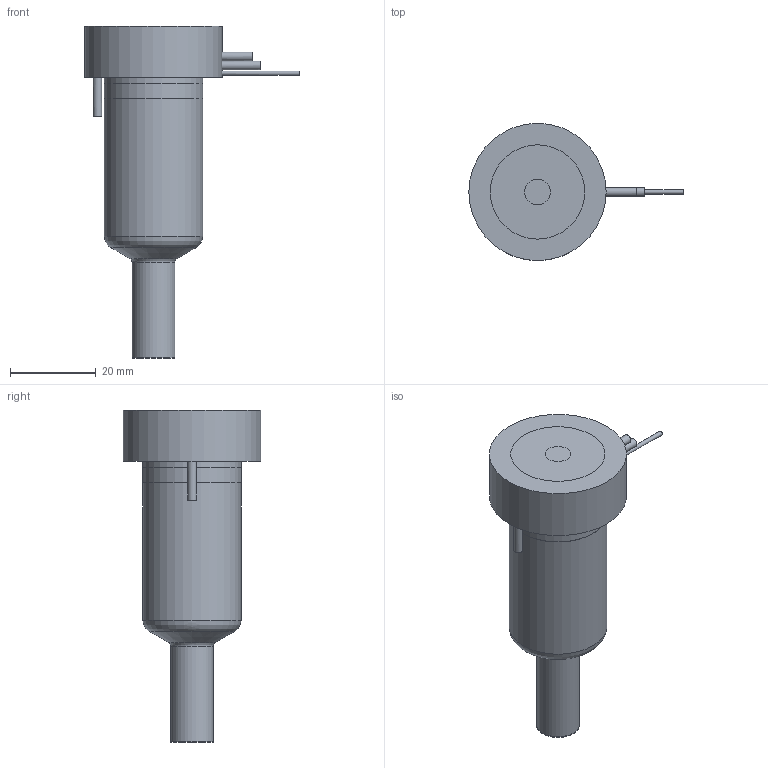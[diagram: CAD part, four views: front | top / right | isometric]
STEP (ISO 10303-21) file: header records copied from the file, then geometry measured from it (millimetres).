
FILE_DESCRIPTION(/* description */ (''),/* implementation_level */ '2;1');
FILE_NAME(/* name */ 'MXYCN13045P7U_200C_a',/* time_stamp */ '2016-02-29T14:49:48+13:00',/* author */ (''),/* organization */ (''),/* preprocessor_version */ 'ST-DEVELOPER v9',/* originating_system */ 'UGS - NX 4.0',/* authorisation */ '');
FILE_SCHEMA (('CONFIG_CONTROL_DESIGN'));
Length unit declared in the file: millimetre
Products named in the file (1): mattB1369yee
Bounding box: 49.95 x 32 x 77.39 mm (x, y, z)
Volume: 46731.1 mm3; surface area: 12434.3 mm2
Topology: 2 solids, 2 shells, 71 faces, 156 edges, 102 vertices
Faces by surface type: plane 31, cylinder 26, torus 7, cone 5, bspline 1, sphere 1
Full cylindrical faces by diameter (mm): 1 x2, 1.2 x1, 2 x3, 4 x1, 6 x1, 9.61 x1, 9.995 x2, 12.6 x1, 18.8 x1, 22.9 x1, 23 x2, 32 x1
Entity records: 2121 total; most frequent: CARTESIAN_POINT 614, DIRECTION 314, ORIENTED_EDGE 234, AXIS2_PLACEMENT_3D 141, EDGE_CURVE 117, EDGE_LOOP 114, VERTEX_POINT 91, ADVANCED_FACE 71
